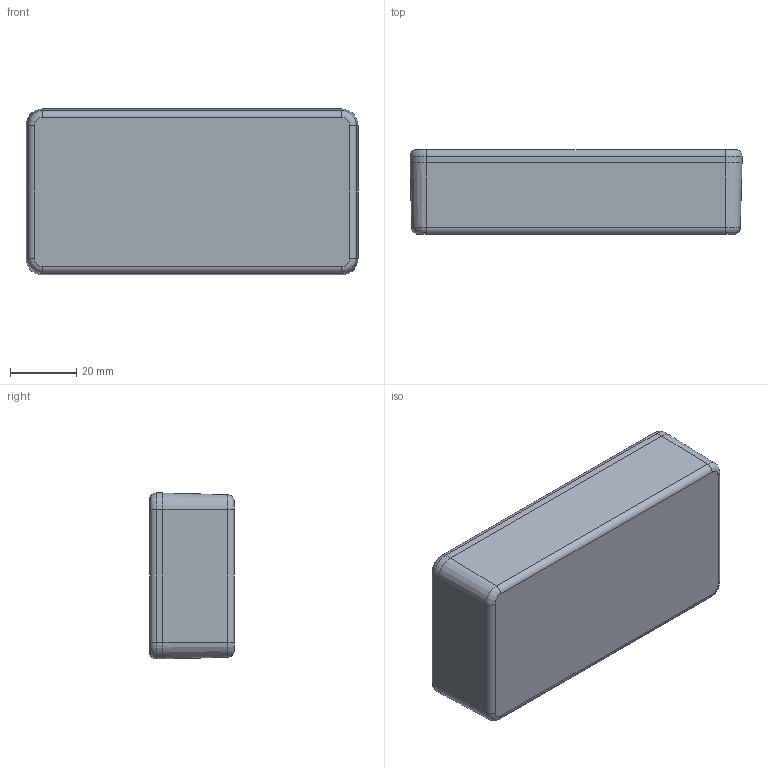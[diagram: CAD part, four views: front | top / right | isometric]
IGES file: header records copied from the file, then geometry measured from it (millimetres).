
Global section: file name: 1590G.iam; native system: Autodesk Inventor 2014; preprocessor: unknown; author: mbeerman; date: 20140728.134652; units: millimetre
Bounding box: 100 x 25.5 x 50 mm (x, y, z)
Volume: 37076.7 mm3; surface area: 34687.7 mm2
Topology: 6 solids, 6 shells, 472 faces, 1240 edges, 792 vertices
Faces by surface type: plane 243, bspline 101, revolution 88, cylinder 32, cone 8
Full cylindrical faces by diameter (mm): 3.378 x4
